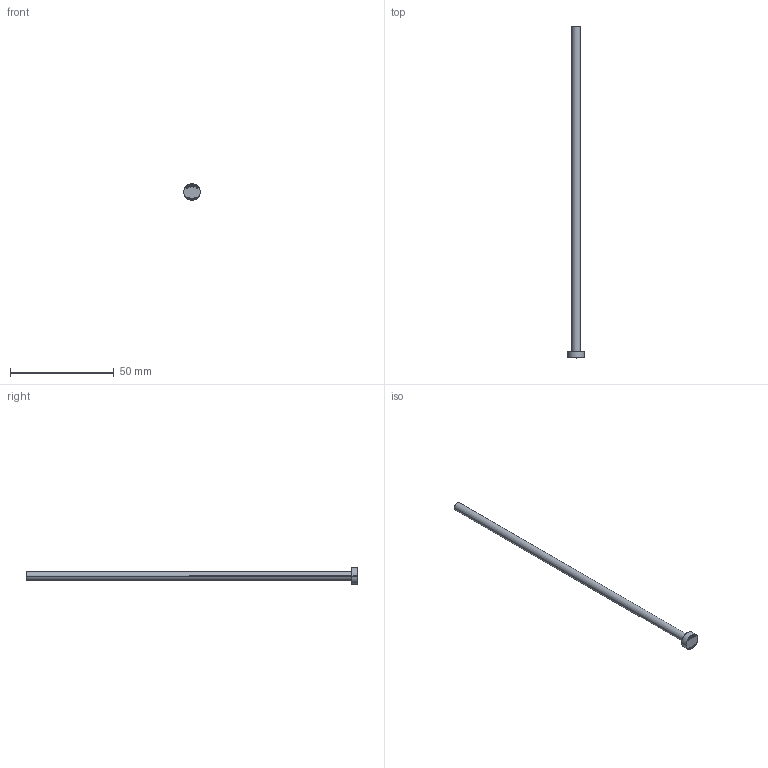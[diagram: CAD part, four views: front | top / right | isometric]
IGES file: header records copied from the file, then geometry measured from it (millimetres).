
Start section: SolidWorks IGES file using analytic representation for surfaces
Global section: file name: C:\Users\User\Downloads\Matripeça 31-08 tar\PB - PINO EXTRATOR TIPO _B_ (CATÁLOGO)\PB04,0\PB04,0160.IGS; native system: SolidWorks 2024; preprocessor: SolidWorks 2024; author: User; date: 260901.142001; units: millimetre
Bounding box: 8 x 160 x 8 mm (x, y, z)
Surface area: 2153.5 mm2 (no closed solid volume)
Topology: 0 solids, 0 shells, 399 faces, 3341 edges, 3341 vertices
Faces by surface type: bspline 385, revolution 14
